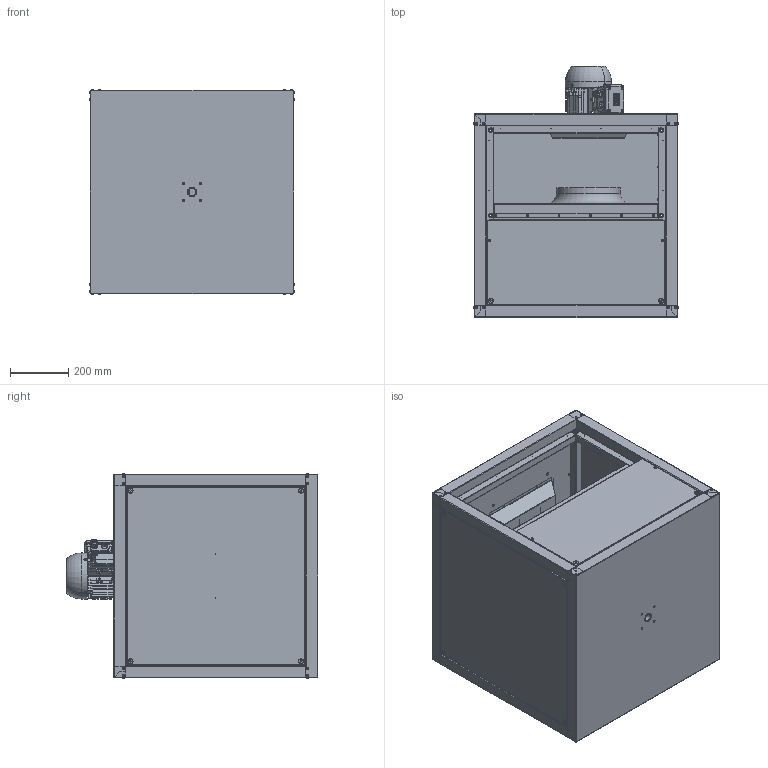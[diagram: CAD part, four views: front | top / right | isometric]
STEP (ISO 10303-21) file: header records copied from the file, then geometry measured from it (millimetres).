
FILE_DESCRIPTION (( 'STEP AP203' ), '1' );
FILE_NAME ('146675-00_MPC355D4F4TI30_step.step', '2018-10-09T09:56:34', ( '' ), ( '' ), 'SwSTEP 2.0', 'SolidWorks 2017', '' );
FILE_SCHEMA (( 'CONFIG_CONTROL_DESIGN' ));
Products named in the file (1): 146675-00_MPC355D4F4TI30_step
Bounding box: 702.6 x 863.1 x 702.6 mm (x, y, z)
Surface area: 6682709.3 mm2 (no closed solid volume)
Topology: 0 solids, 301 shells, 1837 faces, 8244 edges, 6505 vertices
Faces by surface type: plane 883, cylinder 535, torus 288, cone 71, bspline 60
Entity records: 89181 total; most frequent: CARTESIAN_POINT 23832, DIRECTION 13855, ORIENTED_EDGE 10697, EDGE_CURVE 8244, VERTEX_POINT 6505, AXIS2_PLACEMENT_3D 4629, LINE 4597, VECTOR 4597
